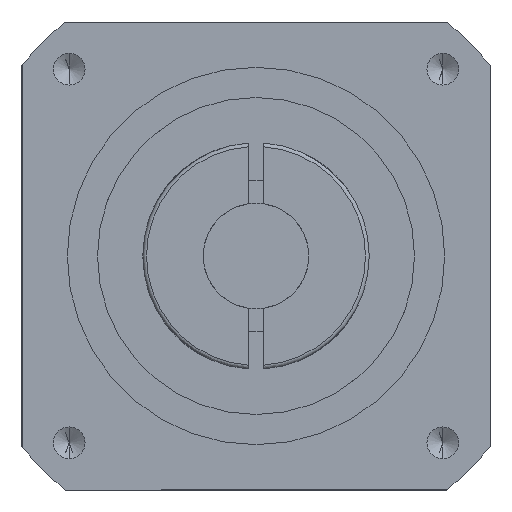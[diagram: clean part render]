
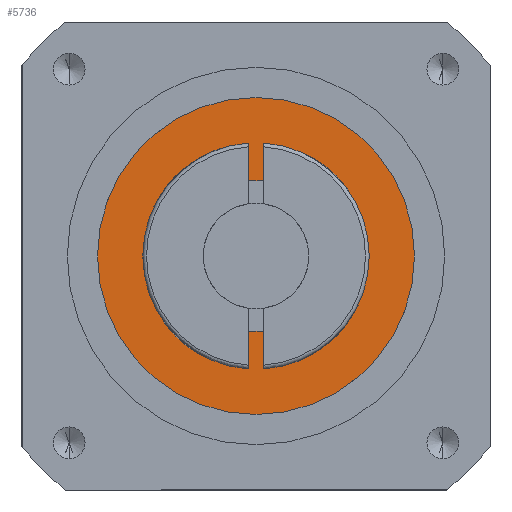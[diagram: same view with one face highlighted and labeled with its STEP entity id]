
A CAD part, front view. The second image highlights one B-rep face of the part: STEP entity #5736.
In plain terms, the highlighted planar face has unit normal (0, -1, 0).
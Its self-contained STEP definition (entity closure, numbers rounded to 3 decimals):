
#307 = VERTEX_POINT ( 'NONE', #2670 ) ;
#308 = VERTEX_POINT ( 'NONE', #2671 ) ;
#310 = VERTEX_POINT ( 'NONE', #2673 ) ;
#315 = VERTEX_POINT ( 'NONE', #2678 ) ;
#500 = EDGE_LOOP ( 'NONE', ( #1113, #1114 ) ) ;
#511 = EDGE_LOOP ( 'NONE', ( #1111, #1112 ) ) ;
#920 = EDGE_CURVE ( 'NONE', #307, #308, #2100, .T. ) ;
#931 = EDGE_CURVE ( 'NONE', #310, #315, #2119, .T. ) ;
#960 = EDGE_CURVE ( 'NONE', #315, #310, #3283, .T. ) ;
#961 = EDGE_CURVE ( 'NONE', #308, #307, #3293, .T. ) ;
#1111 = ORIENTED_EDGE ( 'NONE', *, *, #960, .T. ) ;
#1112 = ORIENTED_EDGE ( 'NONE', *, *, #931, .T. ) ;
#1113 = ORIENTED_EDGE ( 'NONE', *, *, #920, .T. ) ;
#1114 = ORIENTED_EDGE ( 'NONE', *, *, #961, .T. ) ;
#1827 = AXIS2_PLACEMENT_3D ( 'NONE', #3087, #3088, #3089 ) ;
#1831 = AXIS2_PLACEMENT_3D ( 'NONE', #3191, #3192, #3193 ) ;
#1841 = AXIS2_PLACEMENT_3D ( 'NONE', #3615, #3616, #3617 ) ;
#1842 = AXIS2_PLACEMENT_3D ( 'NONE', #3620, #3621, #3622 ) ;
#2100 = CIRCLE ( 'NONE', #1827, 10. ) ;
#2119 = CIRCLE ( 'NONE', #1831, 21. ) ;
#2670 = CARTESIAN_POINT ( 'NONE',  ( 0., -66., 10. ) ) ;
#2671 = CARTESIAN_POINT ( 'NONE',  ( 0., -66., -10. ) ) ;
#2673 = CARTESIAN_POINT ( 'NONE',  ( 0., -66., 21. ) ) ;
#2678 = CARTESIAN_POINT ( 'NONE',  ( 0., -66., -21. ) ) ;
#3087 = CARTESIAN_POINT ( 'NONE',  ( 0., -66., 0. ) ) ;
#3088 = DIRECTION ( 'NONE',  ( 0., 1., 0. ) ) ;
#3089 = DIRECTION ( 'NONE',  ( 0., 0., 1. ) ) ;
#3191 = CARTESIAN_POINT ( 'NONE',  ( 0., -66., 0. ) ) ;
#3192 = DIRECTION ( 'NONE',  ( 0., -1., 0. ) ) ;
#3193 = DIRECTION ( 'NONE',  ( 0., 0., -1. ) ) ;
#3283 = CIRCLE ( 'NONE', #1841, 21. ) ;
#3293 = CIRCLE ( 'NONE', #1842, 10. ) ;
#3615 = CARTESIAN_POINT ( 'NONE',  ( 0., -66., 0. ) ) ;
#3616 = DIRECTION ( 'NONE',  ( 0., -1., 0. ) ) ;
#3617 = DIRECTION ( 'NONE',  ( 0., 0., -1. ) ) ;
#3620 = CARTESIAN_POINT ( 'NONE',  ( 0., -66., 0. ) ) ;
#3621 = DIRECTION ( 'NONE',  ( 0., 1., 0. ) ) ;
#3622 = DIRECTION ( 'NONE',  ( 0., 0., 1. ) ) ;
#5124 = FACE_OUTER_BOUND ( 'NONE', #511, .T. ) ;
#5128 = FACE_BOUND ( 'NONE', #500, .T. ) ;
#5328 = CARTESIAN_POINT ( 'NONE',  ( 0., -66., 0. ) ) ;
#5332 = PLANE ( 'NONE',  #5486 ) ;
#5337 = DIRECTION ( 'NONE',  ( 0., -1., 0. ) ) ;
#5338 = DIRECTION ( 'NONE',  ( 0., 0., -1. ) ) ;
#5486 = AXIS2_PLACEMENT_3D ( 'NONE', #5328, #5337, #5338 ) ;
#5736 = ADVANCED_FACE ( 'NONE', ( #5124, #5128 ), #5332, .T. ) ;
